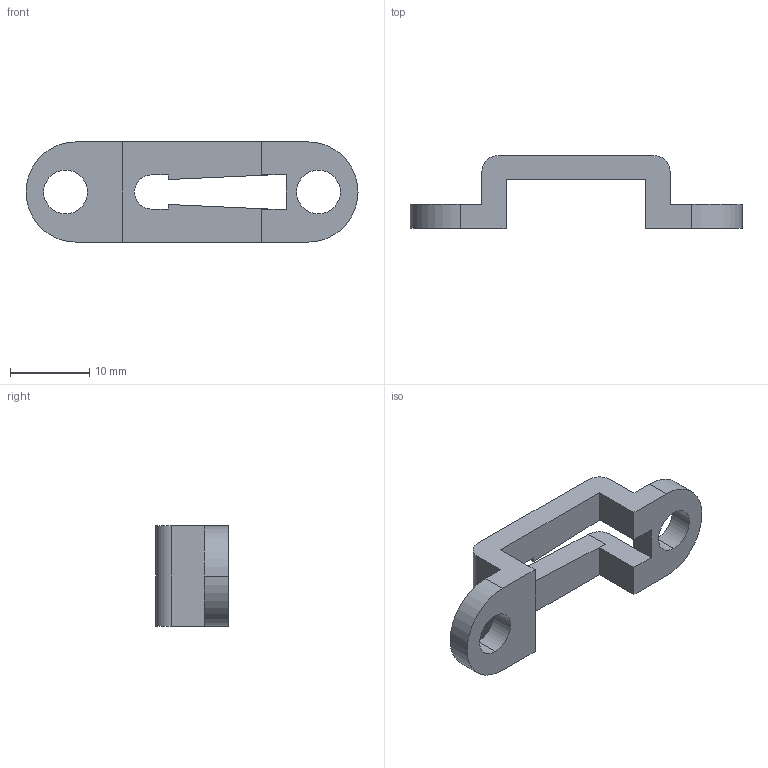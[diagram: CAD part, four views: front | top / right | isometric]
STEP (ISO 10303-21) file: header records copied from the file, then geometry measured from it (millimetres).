
FILE_DESCRIPTION (( 'STEP AP214' ), '1' );
FILE_NAME ('5032AC_V01_REF_BLOCK_SEMI-LOCKING_SGL_CLIP.STEP', '2025-06-09T17:32:59', ( '' ), ( '' ), 'SwSTEP 2.0', 'SolidWorks 2025', '' );
FILE_SCHEMA (( 'AUTOMOTIVE_DESIGN' ));
Length unit declared in the file: inch
Products named in the file (1): 5032AC_V01_REF_BLOCK_SEMI-LOCKING_SGL_CLIP
Bounding box: 42.01 x 9.22 x 12.7 mm (x, y, z)
Volume: 1528.2 mm3; surface area: 1651.8 mm2
Topology: 1 solids, 1 shells, 35 faces, 101 edges, 66 vertices
Faces by surface type: plane 23, cylinder 12
Entity records: 1186 total; most frequent: CARTESIAN_POINT 203, ORIENTED_EDGE 202, DIRECTION 197, EDGE_CURVE 101, LINE 77, VECTOR 77, VERTEX_POINT 66, AXIS2_PLACEMENT_3D 60
